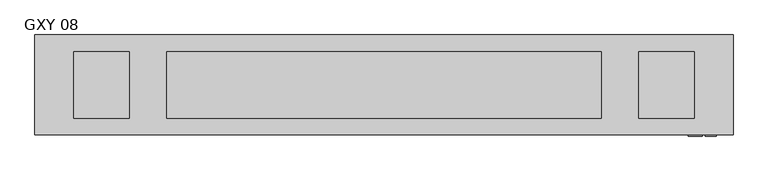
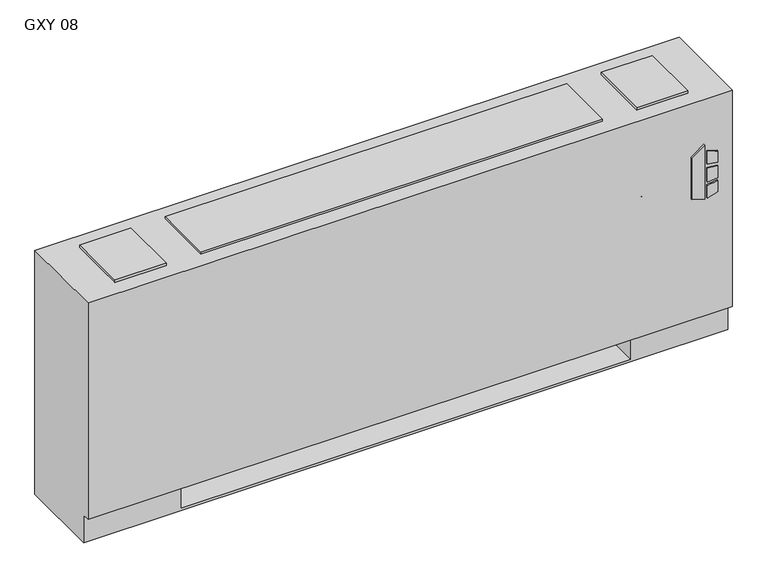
"""IFC4 building model written with IfcOpenShell, lengths in millimetres: proxy geometry, Vertical_Fan_Coil_Unit_-_GXY_-_IEC_-_2-Pipe_TS-FR_RH_2022 : GXY 08."""

from ifc_helpers import new_model, si_unit, point, frame, frame_2d, origin, place, context, project, spatial, polyline, circle_curve, trimmed, segment, composite_curve, outline, extrude, source, transform, mapped, element, save
from ifc_brep_helpers import plane_surface, revolved_surface, advanced_brep


def gxy_08_80e307a5(model_context):
    return source(origin(), model_context, "Body", "SolidModel", [
        extrude(outline(polyline([(391.6086829, 849.3868862), (381.6606126, 881.5602728), (523.831537, 881.5602728), (500.8095309, 849.3868862), (391.6086829, 849.3868862)])), frame((0.0, 12.7, 0.0), z_axis=(0.0, 1.0, 0.0), x_axis=(0.0, 0.0, 1.0)), (0.0, 0.0, 1.0), 3.175),
        extrude(outline(polyline([(470.6079683, 888.3186058), (467.4055757, 914.4), (496.6344168, 914.4), (504.6988318, 888.3186058), (470.6079683, 888.3186058)])), frame((0.0, 12.7, 0.0), z_axis=(0.0, 1.0, 0.0), x_axis=(0.0, 0.0, 1.0)), (0.0, 0.0, 1.0), 3.175),
        extrude(outline(polyline([(418.7444414, 914.4), (415.0789404, 888.3186058), (381.6606126, 888.3186058), (390.2948498, 914.4), (418.7444414, 914.4)])), frame((0.0, 12.7, 0.0), z_axis=(0.0, 1.0, 0.0), x_axis=(0.0, 0.0, 1.0)), (0.0, 0.0, 1.0), 3.175),
        extrude(outline(polyline([(458.0596028, 914.4), (460.3414292, 888.3186058), (424.4038806, 888.3186058), (427.1451456, 914.4), (458.0596028, 914.4)])), frame((0.0, 12.7, 0.0), z_axis=(0.0, 1.0, 0.0), x_axis=(0.0, 0.0, 1.0)), (0.0, 0.0, 1.0), 3.175),
        extrude(outline(polyline([(-527.05, 81.534), (-527.05, 223.266), (-127.0, 223.266), (-127.0, 81.534), (-527.05, 81.534)])), frame((0.0, 0.0, 327.025), z_axis=(0.0, 0.0, 1.0), x_axis=(1.0, 0.0, 0.0)), (0.0, 0.0, 1.0), 260.35),
        extrude(outline(polyline([(-431.8, 206.375), (-431.8, 53.975), (-558.8, 53.975), (-558.8, 206.375), (-431.8, 206.375)])), frame((0.0, 0.0, 641.35), z_axis=(0.0, 0.0, 1.0), x_axis=(1.0, 0.0, 0.0)), (0.0, 0.0, 1.0), 6.35),
        extrude(outline(polyline([(863.6, 206.375), (863.6, 53.975), (736.6, 53.975), (736.6, 206.375), (863.6, 206.375)])), frame((0.0, 0.0, 641.35), z_axis=(0.0, 0.0, 1.0), x_axis=(1.0, 0.0, 0.0)), (0.0, 0.0, 1.0), 6.35),
        extrude(outline(composite_curve([segment(trimmed(circle_curve(frame_2d((78.9432, 398.5514)), 7.9375), [point((78.9432, 406.4889))], [point((78.9432, 390.6139))], False, "CARTESIAN"), True, "CONTINUOUS"), segment(trimmed(circle_curve(frame_2d((78.9432, 398.5514)), 7.9375), [point((78.9432, 390.6139))], [point((78.9432, 406.4889))], False, "CARTESIAN"), True, "CONTINUOUS")], self_intersect=False)), frame((711.2, 0.0, 0.0), z_axis=(1.0, 0.0, 0.0), x_axis=(0.0, 1.0, 0.0)), (0.0, 0.0, 1.0), 50.8),
        extrude(outline(composite_curve([segment(trimmed(circle_curve(frame_2d((155.9052, 537.3878)), 7.9375), [point((155.9052, 545.3253))], [point((155.9052, 529.4503))], False, "CARTESIAN"), True, "CONTINUOUS"), segment(trimmed(circle_curve(frame_2d((155.9052, 537.3878)), 7.9375), [point((155.9052, 529.4503))], [point((155.9052, 545.3253))], False, "CARTESIAN"), True, "CONTINUOUS")], self_intersect=False)), frame((711.2, 0.0, 0.0), z_axis=(1.0, 0.0, 0.0), x_axis=(0.0, 1.0, 0.0)), (0.0, 0.0, 1.0), 50.8),
        advanced_brep(
        [(952.5, 244.475, 641.35), (-647.7, 244.475, 641.35), (-647.7, 15.875, 641.35), (952.5, 15.875, 641.35), (-647.7, 244.475, 0.0), (952.5, 244.475, 0.0), (952.5, 34.925, 0.0), (-647.7, 34.925, 0.0), (711.2, 244.475, 73.025), (939.8, 244.475, 73.025), (939.8, 244.475, 628.65), (711.2, 244.475, 628.65), (711.2, 244.475, 418.0400565), (739.775, 244.475, 418.0400565), (739.775, 244.475, 388.4099435), (711.2, 244.475, 388.4099435), (711.2, 244.475, 290.5125), (739.775, 244.475, 290.5125), (739.775, 244.475, 261.9375), (711.2, 244.475, 261.9375), (711.2, 244.475, 119.0625), (739.775, 244.475, 119.0625), (739.775, 244.475, 90.4875), (711.2, 244.475, 90.4875), (-406.4, 244.475, 628.65), (-635.0, 244.475, 628.65), (-635.0, 244.475, 73.025), (-406.4, 244.475, 73.025), (-406.4, 244.475, 90.4875), (-434.975, 244.475, 90.4875), (-434.975, 244.475, 119.0625), (-406.4, 244.475, 119.0625), (-406.4, 244.475, 261.9375), (-434.975, 244.475, 261.9375), (-434.975, 244.475, 290.5125), (-406.4, 244.475, 290.5125), (-406.4, 244.475, 388.4099435), (-434.975, 244.475, 388.4099435), (-434.975, 244.475, 418.0400565), (-406.4, 244.475, 418.0400565), (729.4626, 244.475, 104.775), (718.3374, 244.475, 104.775), (729.4626, 244.475, 403.225), (718.3374, 244.475, 403.225), (729.4626, 244.475, 276.225), (718.3374, 244.475, 276.225), (-413.5374, 244.475, 104.775), (-424.6626, 244.475, 104.775), (-413.5374, 244.475, 276.225), (-424.6626, 244.475, 276.225), (-413.5374, 244.475, 403.225), (-424.6626, 244.475, 403.225), (-647.7, 34.925, 73.025), (-647.7, 15.875, 73.025), (952.5, 15.875, 73.025), (952.5, 34.925, 73.025), (-406.4, 34.925, 73.025), (-406.4, 219.075, 73.025), (711.2, 219.075, 73.025), (711.2, 34.925, 73.025), (711.2, 34.925, 6.35), (-406.4, 34.925, 6.35), (711.2, 41.275, 628.65), (939.8, 41.275, 628.65), (939.8, 41.275, 73.025), (711.2, 41.275, 73.025), (-406.4, 41.275, 628.65), (-406.4, 41.275, 73.025), (-635.0, 41.275, 73.025), (-635.0, 41.275, 628.65), (711.2, 219.075, 73.025), (711.2, 238.125, 90.4875), (711.2, 238.125, 119.0625), (711.2, 238.125, 261.9375), (711.2, 238.125, 290.5125), (711.2, 238.125, 388.4099435), (711.2, 238.125, 418.0400565), (-406.4, 219.075, 73.025), (-406.4, 238.125, 418.0400565), (-406.4, 238.125, 388.4099435), (-406.4, 238.125, 290.5125), (-406.4, 238.125, 261.9375), (-406.4, 238.125, 119.0625), (-406.4, 238.125, 90.4875), (-406.4, 219.075, 6.35), (711.2, 219.075, 6.35), (739.775, 238.125, 90.4875), (739.775, 238.125, 119.0625), (718.3374, 238.125, 104.775), (729.4626, 238.125, 104.775), (739.775, 238.125, 261.9375), (739.775, 238.125, 290.5125), (718.3374, 238.125, 276.225), (729.4626, 238.125, 276.225), (739.775, 238.125, 388.4099435), (739.775, 238.125, 418.0400565), (718.3374, 238.125, 403.225), (729.4626, 238.125, 403.225), (-434.975, 238.125, 119.0625), (-434.975, 238.125, 90.4875), (-424.6626, 238.125, 104.775), (-413.5374, 238.125, 104.775), (-434.975, 238.125, 290.5125), (-434.975, 238.125, 261.9375), (-424.6626, 238.125, 276.225), (-413.5374, 238.125, 276.225), (-434.975, 238.125, 418.0400565), (-434.975, 238.125, 388.4099435), (-424.6626, 238.125, 403.225), (-413.5374, 238.125, 403.225)],
        [
            (0, 1),
            (1, 2),
            (2, 3),
            (3, 0),
            (4, 5),
            (5, 6),
            (6, 7),
            (7, 4),
            (0, 5),
            (4, 1),
            (8, 9),
            (9, 10),
            (10, 11),
            (11, 12),
            (12, 13),
            (13, 14),
            (14, 15),
            (15, 16),
            (16, 17),
            (17, 18),
            (18, 19),
            (19, 20),
            (20, 21),
            (21, 22),
            (22, 23),
            (23, 8),
            (24, 25),
            (25, 26),
            (26, 27),
            (27, 28),
            (28, 29),
            (29, 30),
            (30, 31),
            (31, 32),
            (32, 33),
            (33, 34),
            (34, 35),
            (35, 36),
            (36, 37),
            (37, 38),
            (38, 39),
            (39, 24),
            (40, 41, circle_curve(frame((723.9, 244.475, 104.775), z_axis=(0.0, -1.0, 0.0), x_axis=(-1.0, 0.0, 0.0)), 5.5626)),
            (41, 40, circle_curve(frame((723.9, 244.475, 104.775), z_axis=(0.0, -1.0, 0.0), x_axis=(-1.0, 0.0, 0.0)), 5.5626)),
            (42, 43, circle_curve(frame((723.9, 244.475, 403.225), z_axis=(0.0, -1.0, 0.0), x_axis=(-1.0, 0.0, 0.0)), 5.5626)),
            (43, 42, circle_curve(frame((723.9, 244.475, 403.225), z_axis=(0.0, -1.0, 0.0), x_axis=(-1.0, 0.0, 0.0)), 5.5626)),
            (44, 45, circle_curve(frame((723.9, 244.475, 276.225), z_axis=(0.0, -1.0, 0.0), x_axis=(-1.0, 0.0, 0.0)), 5.5626)),
            (45, 44, circle_curve(frame((723.9, 244.475, 276.225), z_axis=(0.0, -1.0, 0.0), x_axis=(-1.0, 0.0, 0.0)), 5.5626)),
            (46, 47, circle_curve(frame((-419.1, 244.475, 104.775), z_axis=(0.0, -1.0, 0.0), x_axis=(-1.0, 0.0, 0.0)), 5.5626)),
            (47, 46, circle_curve(frame((-419.1, 244.475, 104.775), z_axis=(0.0, -1.0, 0.0), x_axis=(-1.0, 0.0, 0.0)), 5.5626)),
            (48, 49, circle_curve(frame((-419.1, 244.475, 276.225), z_axis=(0.0, -1.0, 0.0), x_axis=(-1.0, 0.0, 0.0)), 5.5626)),
            (49, 48, circle_curve(frame((-419.1, 244.475, 276.225), z_axis=(0.0, -1.0, 0.0), x_axis=(-1.0, 0.0, 0.0)), 5.5626)),
            (50, 51, circle_curve(frame((-419.1, 244.475, 403.225), z_axis=(0.0, -1.0, 0.0), x_axis=(-1.0, 0.0, 0.0)), 5.5626)),
            (51, 50, circle_curve(frame((-419.1, 244.475, 403.225), z_axis=(0.0, -1.0, 0.0), x_axis=(-1.0, 0.0, 0.0)), 5.5626)),
            (7, 52),
            (52, 53),
            (53, 2),
            (53, 54),
            (54, 3),
            (54, 55),
            (55, 6),
            (52, 56),
            (56, 57),
            (57, 58),
            (58, 59),
            (59, 55),
            (59, 60),
            (60, 61),
            (61, 56),
            (62, 63),
            (63, 64),
            (64, 65),
            (65, 62),
            (66, 67),
            (67, 68),
            (68, 69),
            (69, 66),
            (65, 70),
            (70, 8),
            (23, 71),
            (71, 72),
            (72, 20),
            (19, 73),
            (73, 74),
            (74, 16),
            (15, 75),
            (75, 76),
            (76, 12),
            (11, 62),
            (64, 9),
            (63, 10),
            (69, 25),
            (24, 66),
            (68, 26),
            (67, 77),
            (77, 27),
            (39, 78),
            (78, 79),
            (79, 36),
            (35, 80),
            (80, 81),
            (81, 32),
            (31, 82),
            (82, 83),
            (83, 28),
            (57, 84),
            (84, 85),
            (85, 58),
            (85, 60),
            (84, 61),
            (71, 86),
            (86, 87),
            (87, 72),
            (88, 89, circle_curve(frame((723.9, 238.125, 104.775), z_axis=(0.0, 1.0, 0.0), x_axis=(-1.0, 0.0, 0.0)), 5.5626)),
            (89, 88, circle_curve(frame((723.9, 238.125, 104.775), z_axis=(0.0, 1.0, 0.0), x_axis=(-1.0, 0.0, 0.0)), 5.5626)),
            (73, 90),
            (90, 91),
            (91, 74),
            (92, 93, circle_curve(frame((723.9, 238.125, 276.225), z_axis=(0.0, 1.0, 0.0), x_axis=(-1.0, 0.0, 0.0)), 5.5626)),
            (93, 92, circle_curve(frame((723.9, 238.125, 276.225), z_axis=(0.0, 1.0, 0.0), x_axis=(-1.0, 0.0, 0.0)), 5.5626)),
            (75, 94),
            (94, 95),
            (95, 76),
            (96, 97, circle_curve(frame((723.9, 238.125, 403.225), z_axis=(0.0, 1.0, 0.0), x_axis=(-1.0, 0.0, 0.0)), 5.5626)),
            (97, 96, circle_curve(frame((723.9, 238.125, 403.225), z_axis=(0.0, 1.0, 0.0), x_axis=(-1.0, 0.0, 0.0)), 5.5626)),
            (98, 99),
            (99, 83),
            (82, 98),
            (100, 101, circle_curve(frame((-419.1, 238.125, 104.775), z_axis=(0.0, 1.0, 0.0), x_axis=(-1.0, 0.0, 0.0)), 5.5626)),
            (101, 100, circle_curve(frame((-419.1, 238.125, 104.775), z_axis=(0.0, 1.0, 0.0), x_axis=(-1.0, 0.0, 0.0)), 5.5626)),
            (102, 103),
            (103, 81),
            (80, 102),
            (104, 105, circle_curve(frame((-419.1, 238.125, 276.225), z_axis=(0.0, 1.0, 0.0), x_axis=(-1.0, 0.0, 0.0)), 5.5626)),
            (105, 104, circle_curve(frame((-419.1, 238.125, 276.225), z_axis=(0.0, 1.0, 0.0), x_axis=(-1.0, 0.0, 0.0)), 5.5626)),
            (106, 107),
            (107, 79),
            (78, 106),
            (108, 109, circle_curve(frame((-419.1, 238.125, 403.225), z_axis=(0.0, 1.0, 0.0), x_axis=(-1.0, 0.0, 0.0)), 5.5626)),
            (109, 108, circle_curve(frame((-419.1, 238.125, 403.225), z_axis=(0.0, 1.0, 0.0), x_axis=(-1.0, 0.0, 0.0)), 5.5626)),
            (87, 21),
            (86, 22),
            (91, 17),
            (90, 18),
            (95, 13),
            (94, 14),
            (30, 98),
            (99, 29),
            (34, 102),
            (103, 33),
            (38, 106),
            (107, 37),
            (88, 41),
            (40, 89),
            (96, 43),
            (42, 97),
            (92, 45),
            (44, 93),
            (100, 47),
            (46, 101),
            (104, 49),
            (48, 105),
            (108, 51),
            (50, 109),
        ],
        [
            plane_surface(frame((-647.7, 244.475, 641.35), z_axis=(0.0, 0.0, 1.0), x_axis=(-1.0, 0.0, 0.0))),
            plane_surface(frame((-647.7, 244.475, 0.0), z_axis=(0.0, 0.0, -1.0), x_axis=(1.0, 0.0, 0.0))),
            plane_surface(frame((952.5, 244.475, 641.35), z_axis=(0.0, 1.0, 0.0), x_axis=(0.0, 0.0, -1.0))),
            plane_surface(frame((-647.7, 244.475, 641.35), z_axis=(-1.0, 0.0, 0.0), x_axis=(0.0, 0.0, -1.0))),
            plane_surface(frame((-647.7, 15.875, 641.35), z_axis=(0.0, -1.0, 0.0), x_axis=(0.0, 0.0, -1.0))),
            plane_surface(frame((952.5, 15.875, 641.35), z_axis=(1.0, 0.0, 0.0), x_axis=(0.0, 0.0, -1.0))),
            plane_surface(frame((-647.7, 15.875, 73.025), z_axis=(0.0, 0.0, -1.0), x_axis=(1.0, 0.0, 0.0))),
            plane_surface(frame((-647.7, 34.925, 73.025), z_axis=(0.0, -1.0, 0.0), x_axis=(1.0, 0.0, 0.0))),
            plane_surface(frame((711.2, 41.275, 628.65), z_axis=(0.0, 1.0, 0.0), x_axis=(0.0, 0.0, -1.0))),
            plane_surface(frame((711.2, 41.275, 628.65), z_axis=(1.0, 0.0, 0.0), x_axis=(0.0, 1.0, 0.0))),
            plane_surface(frame((711.2, 41.275, 73.025), z_axis=(0.0, 0.0, 1.0), x_axis=(0.0, 1.0, 0.0))),
            plane_surface(frame((939.8, 41.275, 73.025), z_axis=(-1.0, 0.0, 0.0), x_axis=(0.0, 1.0, 0.0))),
            plane_surface(frame((939.8, 41.275, 628.65), z_axis=(0.0, 0.0, -1.0), x_axis=(0.0, 1.0, 0.0))),
            plane_surface(frame((-406.4, 41.275, 628.65), z_axis=(0.0, 0.0, -1.0), x_axis=(0.0, 1.0, 0.0))),
            plane_surface(frame((-635.0, 41.275, 628.65), z_axis=(1.0, 0.0, 0.0), x_axis=(0.0, 1.0, 0.0))),
            plane_surface(frame((-635.0, 41.275, 73.025), z_axis=(0.0, 0.0, 1.0), x_axis=(0.0, 1.0, 0.0))),
            plane_surface(frame((-406.4, 41.275, 73.025), z_axis=(-1.0, 0.0, 0.0), x_axis=(0.0, 1.0, 0.0))),
            plane_surface(frame((711.2, 219.075, 73.025), z_axis=(0.0, -1.0, 0.0), x_axis=(0.0, 0.0, -1.0))),
            plane_surface(frame((711.2, 219.075, 73.025), z_axis=(-1.0, 0.0, 0.0), x_axis=(0.0, -1.0, 0.0))),
            plane_surface(frame((711.2, 219.075, 6.35), z_axis=(0.0, 0.0, 1.0), x_axis=(0.0, -1.0, 0.0))),
            plane_surface(frame((-406.4, 219.075, 6.35), z_axis=(1.0, 0.0, 0.0), x_axis=(0.0, -1.0, 0.0))),
            plane_surface(frame((739.775, 238.125, 119.0625), z_axis=(0.0, -1.0, 0.0), x_axis=(-1.0, 0.0, 0.0))),
            plane_surface(frame((711.2, 244.475, 119.0625), z_axis=(0.0, 0.0, 1.0), x_axis=(0.0, -1.0, 0.0))),
            plane_surface(frame((739.775, 244.475, 119.0625), z_axis=(1.0, 0.0, 0.0), x_axis=(0.0, -1.0, 0.0))),
            plane_surface(frame((739.775, 244.475, 90.4875), z_axis=(0.0, 0.0, -1.0), x_axis=(0.0, -1.0, 0.0))),
            plane_surface(frame((711.2, 244.475, 290.5125), z_axis=(0.0, 0.0, 1.0), x_axis=(0.0, -1.0, 0.0))),
            plane_surface(frame((739.775, 244.475, 290.5125), z_axis=(1.0, 0.0, 0.0), x_axis=(0.0, -1.0, 0.0))),
            plane_surface(frame((739.775, 244.475, 261.9375), z_axis=(0.0, 0.0, -1.0), x_axis=(0.0, -1.0, 0.0))),
            plane_surface(frame((711.2, 244.475, 418.0400565), z_axis=(0.0, 0.0, 1.0), x_axis=(0.0, -1.0, 0.0))),
            plane_surface(frame((739.775, 244.475, 418.0400565), z_axis=(1.0, 0.0, 0.0), x_axis=(0.0, -1.0, 0.0))),
            plane_surface(frame((739.775, 244.475, 388.4099435), z_axis=(0.0, 0.0, -1.0), x_axis=(0.0, -1.0, 0.0))),
            plane_surface(frame((-434.975, 244.475, 119.0625), z_axis=(0.0, 0.0, 1.0), x_axis=(0.0, -1.0, 0.0))),
            plane_surface(frame((-406.4, 244.475, 90.4875), z_axis=(0.0, 0.0, -1.0), x_axis=(0.0, -1.0, 0.0))),
            plane_surface(frame((-434.975, 244.475, 90.4875), z_axis=(-1.0, 0.0, 0.0), x_axis=(0.0, -1.0, 0.0))),
            plane_surface(frame((-434.975, 244.475, 290.5125), z_axis=(0.0, 0.0, 1.0), x_axis=(0.0, -1.0, 0.0))),
            plane_surface(frame((-406.4, 244.475, 261.9375), z_axis=(0.0, 0.0, -1.0), x_axis=(0.0, -1.0, 0.0))),
            plane_surface(frame((-434.975, 244.475, 261.9375), z_axis=(-1.0, 0.0, 0.0), x_axis=(0.0, -1.0, 0.0))),
            plane_surface(frame((-434.975, 244.475, 418.0400565), z_axis=(0.0, 0.0, 1.0), x_axis=(0.0, -1.0, 0.0))),
            plane_surface(frame((-406.4, 244.475, 388.4099435), z_axis=(0.0, 0.0, -1.0), x_axis=(0.0, -1.0, 0.0))),
            plane_surface(frame((-434.975, 244.475, 388.4099435), z_axis=(-1.0, 0.0, 0.0), x_axis=(0.0, -1.0, 0.0))),
            revolved_surface(polyline([(718.3374, 238.125, 104.775), (718.3374, 244.475, 104.775)]), (723.9, 244.475, 104.775), (0.0, -1.0, 0.0)),
            revolved_surface(polyline([(718.3374, 238.125, 403.225), (718.3374, 244.475, 403.225)]), (723.9, 244.475, 403.225), (0.0, -1.0, 0.0)),
            revolved_surface(polyline([(718.3374, 238.125, 276.225), (718.3374, 244.475, 276.225)]), (723.9, 244.475, 276.225), (0.0, -1.0, 0.0)),
            revolved_surface(polyline([(-424.6626, 238.125, 104.775), (-424.6626, 244.475, 104.775)]), (-419.1, 244.475, 104.775), (0.0, -1.0, 0.0)),
            revolved_surface(polyline([(-424.6626, 238.125, 276.225), (-424.6626, 244.475, 276.225)]), (-419.1, 244.475, 276.225), (0.0, -1.0, 0.0)),
            revolved_surface(polyline([(-424.6626, 238.125, 403.225), (-424.6626, 244.475, 403.225)]), (-419.1, 244.475, 403.225), (0.0, -1.0, 0.0)),
        ],
        [
            (0, [[1, 2, 3, 4]]),
            (1, [[5, 6, 7, 8]]),
            (2, [[-1, 9, -5, 10], [11, 12, 13, 14, 15, 16, 17, 18, 19, 20, 21, 22, 23, 24, 25, 26], [27, 28, 29, 30, 31, 32, 33, 34, 35, 36, 37, 38, 39, 40, 41, 42], [43, 44], [45, 46], [47, 48], [49, 50], [51, 52], [53, 54]]),
            (3, [[-2, -10, -8, 55, 56, 57]]),
            (4, [[-3, -57, 58, 59]]),
            (5, [[-4, -59, 60, 61, -6, -9]]),
            (6, [[-56, 62, 63, 64, 65, 66, -60, -58]]),
            (7, [[-7, -61, -66, 67, 68, 69, -62, -55]]),
            (8, [[70, 71, 72, 73]]),
            (8, [[74, 75, 76, 77]]),
            (9, [[-73, 78, 79, -26, 80, 81, 82, -22, 83, 84, 85, -18, 86, 87, 88, -14, 89]]),
            (10, [[-72, 90, -11, -79, -78]]),
            (11, [[-71, 91, -12, -90]]),
            (12, [[-70, -89, -13, -91]]),
            (13, [[-77, 92, -27, 93]]),
            (14, [[-76, 94, -28, -92]]),
            (15, [[-75, 95, 96, -29, -94]]),
            (16, [[-74, -93, -42, 97, 98, 99, -38, 100, 101, 102, -34, 103, 104, 105, -30, -96, -95]]),
            (17, [[-64, 106, 107, 108]]),
            (18, [[-108, 109, -67, -65]]),
            (19, [[-107, 110, -68, -109]]),
            (20, [[-106, -63, -69, -110]]),
            (21, [[111, 112, 113, -81], [114, 115]]),
            (21, [[116, 117, 118, -84], [119, 120]]),
            (21, [[121, 122, 123, -87], [124, 125]]),
            (21, [[126, 127, -104, 128], [129, 130]]),
            (21, [[131, 132, -101, 133], [134, 135]]),
            (21, [[136, 137, -98, 138], [139, 140]]),
            (22, [[-113, 141, -23, -82]]),
            (23, [[-112, 142, -24, -141]]),
            (24, [[-111, -80, -25, -142]]),
            (25, [[-118, 143, -19, -85]]),
            (26, [[-117, 144, -20, -143]]),
            (27, [[-116, -83, -21, -144]]),
            (28, [[-123, 145, -15, -88]]),
            (29, [[-122, 146, -16, -145]]),
            (30, [[-121, -86, -17, -146]]),
            (31, [[-128, -103, -33, 147]]),
            (32, [[-127, 148, -31, -105]]),
            (33, [[-126, -147, -32, -148]]),
            (34, [[-133, -100, -37, 149]]),
            (35, [[-132, 150, -35, -102]]),
            (36, [[-131, -149, -36, -150]]),
            (37, [[-138, -97, -41, 151]]),
            (38, [[-137, 152, -39, -99]]),
            (39, [[-136, -151, -40, -152]]),
            (40, [[153, -43, 154, -114]]),
            (40, [[-153, -115, -154, -44]]),
            (41, [[155, -45, 156, -124]]),
            (41, [[-155, -125, -156, -46]]),
            (42, [[157, -47, 158, -119]]),
            (42, [[-157, -120, -158, -48]]),
            (43, [[159, -49, 160, -129]]),
            (43, [[-159, -130, -160, -50]]),
            (44, [[161, -51, 162, -134]]),
            (44, [[-161, -135, -162, -52]]),
            (45, [[163, -53, 164, -139]]),
            (45, [[-163, -140, -164, -54]]),
        ],
    ),
        extrude(outline(polyline([(650.875, 206.375), (650.875, 53.975), (-346.075, 53.975), (-346.075, 206.375), (650.875, 206.375)])), frame((0.0, 0.0, 641.35), z_axis=(0.0, 0.0, 1.0), x_axis=(1.0, 0.0, 0.0)), (0.0, 0.0, 1.0), 6.35),
    ])


if __name__ == "__main__":
    model = new_model("IFC4")
    model_context = context("Model", 3, world=origin())
    ifc_project = project(units=[si_unit("LENGTHUNIT", "METRE", prefix="MILLI")], contexts=[model_context])
    site = spatial("IfcSite", under=ifc_project)
    building = spatial("IfcBuilding", under=site)
    placement = place(None, origin())
    gxy_08_shape = gxy_08_80e307a5(model_context)
    element("IfcBuildingElementProxy", 1, Name="Vertical_Fan_Coil_Unit_-_GXY_-_IEC_-_2-Pipe_TS-FR_RH_2022 : GXY 08", ObjectType="Vertical_Fan_Coil_Unit_-_GXY_-_IEC_-_2-Pipe_TS-FR_RH_2022 : GXY 08", at=placement, inside=building, context=model_context, shape_type="MappedRepresentation", body=[
        mapped(gxy_08_shape, transform((0.0, 0.0, 0.0), x_axis=(1.0, 0.0, 0.0), y_axis=(0.0, 1.0, 0.0), z_axis=(0.0, 0.0, 1.0))),
    ])
    save(model, "model.ifc")
